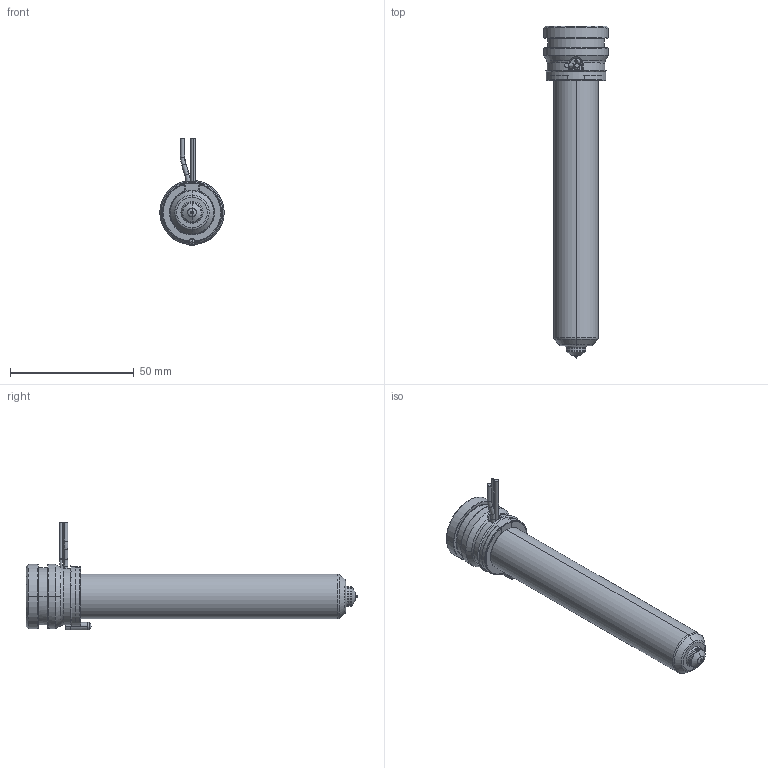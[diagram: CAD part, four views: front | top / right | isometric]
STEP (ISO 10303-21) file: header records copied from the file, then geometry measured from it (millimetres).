
FILE_DESCRIPTION((''),'2;1');
FILE_NAME('MPN-08-24-VSA8-116-A','2026-02-05T12:03:39',('UPTIO'),('Thermoplay S.p.A.'),'CREO PARAMETRIC BY PTC INC, 2023494','CREO PARAMETRIC BY PTC INC, 2023494','');
FILE_SCHEMA(('CONFIG_CONTROL_DESIGN','SHAPE_APPEARANCE_LAYERS_GROUPS'));
Length unit declared in the file: millimetre
Products named in the file (1): MPN-08-24-VSA8-116-A
Bounding box: 26 x 134 x 43.5 mm (x, y, z)
Volume: 26092.3 mm3; surface area: 33317.4 mm2
Topology: 2 solids, 3 shells, 543 faces, 1440 edges, 895 vertices
Faces by surface type: cylinder 182, plane 143, bspline 80, torus 62, cone 60, sphere 10, extrusion 6
Entity records: 28341 total; most frequent: CARTESIAN_POINT 12143, ORIENTED_EDGE 2864, DIRECTION 2580, EDGE_CURVE 1432, AXIS2_PLACEMENT_3D 1007, VERTEX_POINT 895, EDGE_LOOP 571, VECTOR 566
